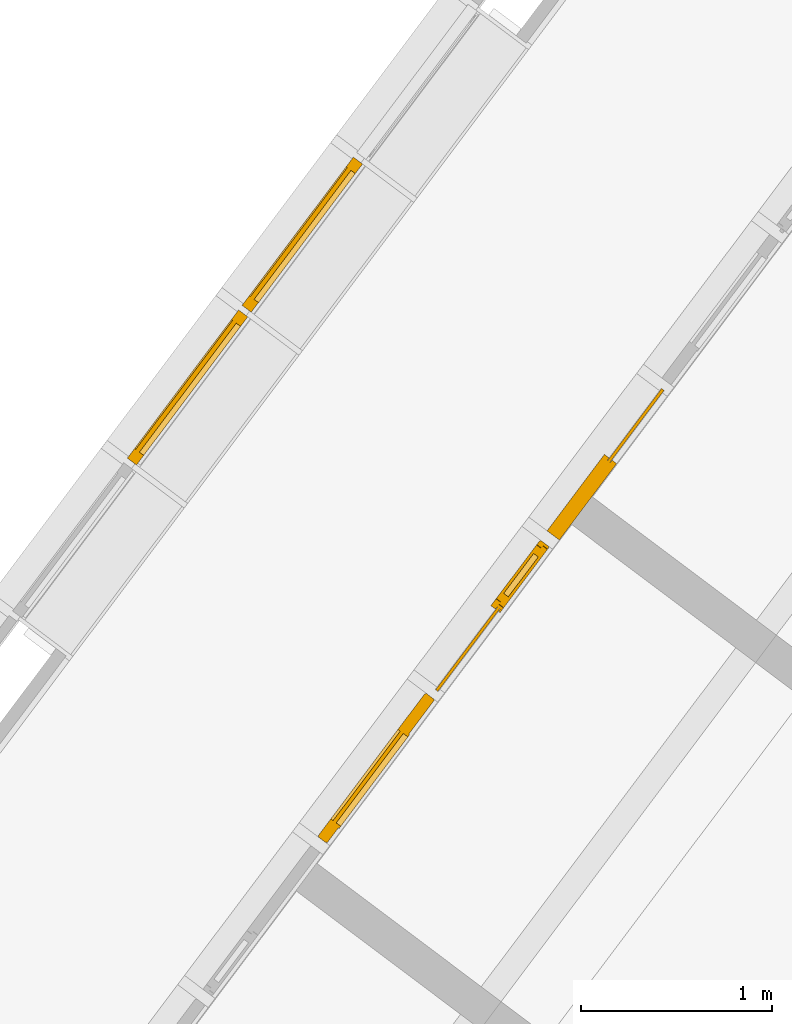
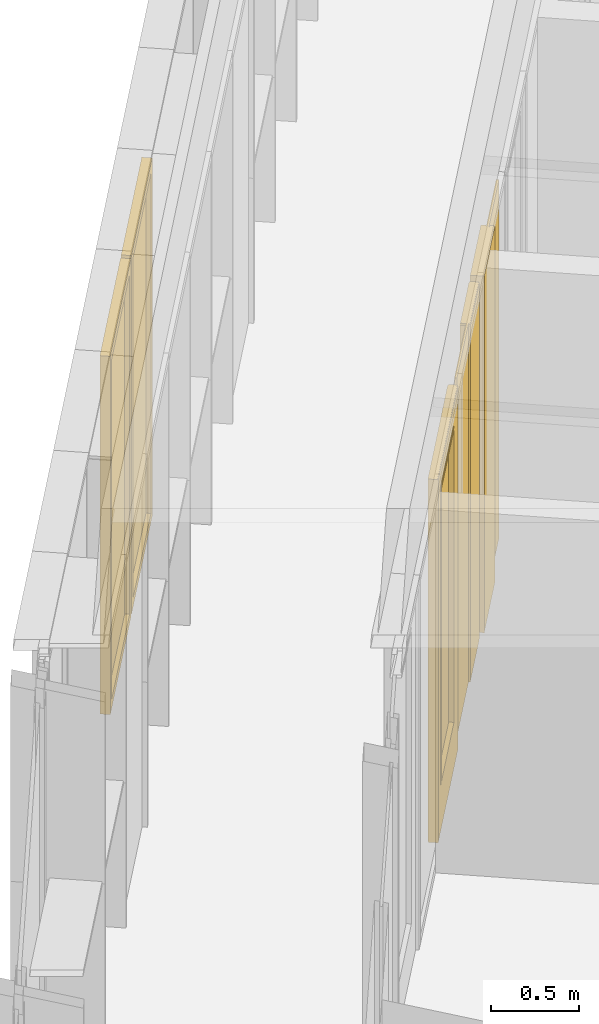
# One storey, part 163 of 243: 4 windows, 1 door, 2 elements without a shape of their own.
"""IFC2X3 building model written with IfcOpenShell, lengths in metres."""

from ifc_helpers import new_model, entity, si_unit, converted_unit, derived_unit, direction, frame, origin, origin_2d_with_axis, place, context, subcontext, project, spatial, polyline, rectangle, outline, extrude, faceted_brep, source, transform, mapped, material, material_list, type_object, type_shapes, element, aggregate, save


model = new_model("IFC2X3")

# Units and contexts
model_context = context("Model", 3, precision=1e-05, world=origin(), true_north=direction((6.123031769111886e-17, 1.0)))
body_context = subcontext(model_context, "Body", "Model", "MODEL_VIEW")
ifc_project = project(units=[si_unit("LENGTHUNIT", "METRE"), si_unit("AREAUNIT", "SQUARE_METRE"), si_unit("VOLUMEUNIT", "CUBIC_METRE"), converted_unit("PLANEANGLEUNIT", "DEGREE", entity("IfcRatioMeasure", 0.017453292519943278), si_unit("PLANEANGLEUNIT", "RADIAN"), dimensions=[0, 0, 0, 0, 0, 0, 0]), si_unit("MASSUNIT", "GRAM", prefix="KILO"), derived_unit("MASSDENSITYUNIT", [(si_unit("MASSUNIT", "GRAM", prefix="KILO"), 1), (si_unit("LENGTHUNIT", "METRE"), -3)]), derived_unit("IONCONCENTRATIONUNIT", [(si_unit("MASSUNIT", "GRAM", prefix="KILO"), 1), (si_unit("LENGTHUNIT", "METRE"), -3)]), derived_unit("MOMENTOFINERTIAUNIT", [(si_unit("LENGTHUNIT", "METRE"), 4)]), si_unit("TIMEUNIT", "SECOND"), si_unit("FREQUENCYUNIT", "HERTZ"), si_unit("THERMODYNAMICTEMPERATUREUNIT", "DEGREE_CELSIUS"), derived_unit("THERMALTRANSMITTANCEUNIT", [(si_unit("MASSUNIT", "GRAM", prefix="KILO"), 1), (si_unit("THERMODYNAMICTEMPERATUREUNIT", "KELVIN"), -1), (si_unit("TIMEUNIT", "SECOND"), -3)]), derived_unit("THERMALCONDUCTANCEUNIT", [(si_unit("MASSUNIT", "GRAM", prefix="KILO"), 1), (si_unit("THERMODYNAMICTEMPERATUREUNIT", "KELVIN"), -1), (si_unit("TIMEUNIT", "SECOND"), -3), (si_unit("LENGTHUNIT", "METRE"), 1)]), derived_unit("VOLUMETRICFLOWRATEUNIT", [(si_unit("LENGTHUNIT", "METRE"), 3), (si_unit("TIMEUNIT", "SECOND"), -1)]), derived_unit("MASSFLOWRATEUNIT", [(si_unit("MASSUNIT", "GRAM", prefix="KILO"), 1), (si_unit("TIMEUNIT", "SECOND"), -1)]), derived_unit("ROTATIONALFREQUENCYUNIT", [(si_unit("TIMEUNIT", "SECOND"), -1)]), si_unit("ELECTRICCURRENTUNIT", "AMPERE"), si_unit("ELECTRICVOLTAGEUNIT", "VOLT"), si_unit("POWERUNIT", "WATT"), si_unit("FORCEUNIT", "NEWTON", prefix="KILO"), si_unit("ILLUMINANCEUNIT", "LUX"), si_unit("LUMINOUSFLUXUNIT", "LUMEN"), si_unit("LUMINOUSINTENSITYUNIT", "CANDELA"), derived_unit("USERDEFINED", [(si_unit("MASSUNIT", "GRAM", prefix="KILO"), -1), (si_unit("LENGTHUNIT", "METRE"), -2), (si_unit("TIMEUNIT", "SECOND"), 3), (si_unit("LUMINOUSFLUXUNIT", "LUMEN"), 1)]), derived_unit("USERDEFINED", [(si_unit("MASSUNIT", "GRAM", prefix="KILO"), 1), (si_unit("TIMEUNIT", "SECOND"), -3), (si_unit("LENGTHUNIT", "METRE"), 3), (si_unit("ELECTRICCURRENTUNIT", "AMPERE"), -2)]), derived_unit("SOUNDPOWERUNIT", [(si_unit("MASSUNIT", "GRAM", prefix="KILO"), 1), (si_unit("TIMEUNIT", "SECOND"), -3), (si_unit("LENGTHUNIT", "METRE"), 2)]), derived_unit("SOUNDPRESSUREUNIT", [(si_unit("MASSUNIT", "GRAM", prefix="KILO"), 1), (si_unit("LENGTHUNIT", "METRE"), -1), (si_unit("TIMEUNIT", "SECOND"), -2)]), derived_unit("LINEARVELOCITYUNIT", [(si_unit("LENGTHUNIT", "METRE"), 1), (si_unit("TIMEUNIT", "SECOND"), -1)]), si_unit("PRESSUREUNIT", "PASCAL"), derived_unit("USERDEFINED", [(si_unit("MASSUNIT", "GRAM", prefix="KILO"), 1), (si_unit("LENGTHUNIT", "METRE"), -2), (si_unit("TIMEUNIT", "SECOND"), -2)]), derived_unit("LINEARFORCEUNIT", [(si_unit("MASSUNIT", "GRAM", prefix="KILO"), 1), (si_unit("TIMEUNIT", "SECOND"), -2)]), derived_unit("PLANARFORCEUNIT", [(si_unit("MASSUNIT", "GRAM", prefix="KILO"), 1), (si_unit("LENGTHUNIT", "METRE"), -1), (si_unit("TIMEUNIT", "SECOND"), -2)]), derived_unit("SPECIFICHEATCAPACITYUNIT", [(si_unit("THERMODYNAMICTEMPERATUREUNIT", "KELVIN"), -1), (si_unit("LENGTHUNIT", "METRE"), 2), (si_unit("TIMEUNIT", "SECOND"), -2)]), derived_unit("HEATINGVALUEUNIT", [(si_unit("LENGTHUNIT", "METRE"), 2), (si_unit("TIMEUNIT", "SECOND"), -2)]), derived_unit("VAPORPERMEABILITYUNIT", [(si_unit("LENGTHUNIT", "METRE"), -1), (si_unit("TIMEUNIT", "SECOND"), 1)]), derived_unit("DYNAMICVISCOSITYUNIT", [(si_unit("MASSUNIT", "GRAM", prefix="KILO"), 1), (si_unit("TIMEUNIT", "SECOND"), -1), (si_unit("LENGTHUNIT", "METRE"), -1)]), derived_unit("THERMALEXPANSIONCOEFFICIENTUNIT", [(si_unit("THERMODYNAMICTEMPERATUREUNIT", "KELVIN"), -1)]), derived_unit("MODULUSOFELASTICITYUNIT", [(si_unit("MASSUNIT", "GRAM", prefix="KILO"), 1), (si_unit("LENGTHUNIT", "METRE"), -1), (si_unit("TIMEUNIT", "SECOND"), -2)]), derived_unit("ISOTHERMALMOISTURECAPACITYUNIT", [(si_unit("LENGTHUNIT", "METRE"), 3), (si_unit("MASSUNIT", "GRAM", prefix="KILO"), -1)]), derived_unit("MOISTUREDIFFUSIVITYUNIT", [(si_unit("TIMEUNIT", "SECOND"), -1), (si_unit("LENGTHUNIT", "METRE"), 2)])], contexts=[model_context])

# Site, building, storey
site_placement = place(None, frame((0.0, 0.0, 235.0), z_axis=(0.0, 0.0, 1.0), x_axis=(-0.7996477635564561, 0.6004693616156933, 0.0)))
site = spatial("IfcSite", under=ifc_project, at=site_placement, Name="Default", CompositionType="ELEMENT")
building_placement = place(site_placement, origin())
building = spatial("IfcBuilding", under=site, at=building_placement, CompositionType="ELEMENT")
storey_placement = place(building_placement, origin())
storey = spatial("IfcBuildingStorey", under=building, at=storey_placement, Name="P0- Escola", CompositionType="ELEMENT", Elevation=0.0)

# Curtain wall, door, windows
curtain_wall_type_1 = type_object("IfcCurtainWallType", Name="Muro cortina:MC- INT- a2", PredefinedType="NOTDEFINED")
curtain_wall_1_placement = place(storey_placement, origin())
curtain_wall_1 = element("IfcCurtainWall", 1, at=curtain_wall_1_placement, inside=storey, type_object=curtain_wall_type_1, Name="Muro cortina:MC- INT- a2", ObjectType="Muro cortina:MC- INT- a2")
ifc_material_1 = material(Name="_Fusta massisa- T1")
ifc_material_2 = material(Name="_Vidre")
ifc_material_list_1 = material_list([ifc_material_1, ifc_material_2])
door_style = type_object("IfcDoorStyle", Name="MC- Fusta- conjunt porta:MC- Fusta- conjunt Porta aules", ConstructionType="NOTDEFINED", OperationType="NOTDEFINED", ParameterTakesPrecedence=False, Sizeable=False, material=ifc_material_list_1)
shared_shape_1 = source(origin(), body_context, "Body", "Brep", [
    faceted_brep([(0.24500000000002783, -0.024999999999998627, 2.3799999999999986), (0.24500000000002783, -0.024999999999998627, 0.3299999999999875), (0.24500000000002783, 0.0050000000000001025, 0.3299999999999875), (0.24500000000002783, 0.0050000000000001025, 2.3799999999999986), (-0.3700000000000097, -0.024999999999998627, 0.3299999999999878), (-0.3700000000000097, 0.0050000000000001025, 0.3299999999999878), (-0.37000000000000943, -0.024999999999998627, 2.3799999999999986), (-0.37000000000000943, 0.0050000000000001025, 2.3799999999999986), (0.23000000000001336, 0.0050000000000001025, 2.3650000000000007), (-0.35499999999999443, 0.0050000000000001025, 2.3650000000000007), (-0.35499999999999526, 0.0050000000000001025, 0.3449999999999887), (0.23000000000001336, 0.0050000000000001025, 0.34499999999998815), (0.23000000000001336, -0.024999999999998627, 2.3650000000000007), (0.23000000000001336, -0.024999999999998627, 0.34499999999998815), (-0.35499999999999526, -0.024999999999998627, 0.3449999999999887), (-0.35499999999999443, -0.024999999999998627, 2.3650000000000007)], [[[0, 1, 2, 3]], [[1, 4, 5, 2]], [[4, 6, 7, 5]], [[8, 9, 10, 11], [3, 2, 5, 7]], [[12, 13, 14, 15], [0, 6, 4, 1]], [[13, 12, 8, 11]], [[14, 13, 11, 10]], [[15, 14, 10, 9]], [[6, 0, 3, 7]], [[12, 15, 9, 8]]], outer=[[True], [True], [True], [False, True], [False, True], [True], [True], [True], [True], [True]]),
    faceted_brep([(0.43999999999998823, 0.03999999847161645, 0.0), (0.43999999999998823, 0.0099999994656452, 0.0), (0.4550000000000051, 0.0099999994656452, 0.0), (0.4550000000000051, -0.01999999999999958, 0.0), (-0.45499999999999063, -0.019999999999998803, 0.0), (-0.45499999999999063, 0.009999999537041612, 0.0), (-0.43999999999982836, 0.009999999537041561, 0.0), (-0.43999999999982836, 0.039999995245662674, 0.0), (0.45500000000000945, -0.01999999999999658, 2.4899999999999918), (-0.45499999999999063, -0.019999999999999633, 2.4899999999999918), (0.24500000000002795, -0.019999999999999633, 0.3300000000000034), (-0.37000000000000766, -0.019999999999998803, 0.3300000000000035), (-0.37000000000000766, -0.01999999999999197, 2.3799999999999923), (0.24500000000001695, -0.019999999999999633, 2.3799999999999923), (0.45500000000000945, 0.0099999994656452, 2.4899999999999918), (-0.45499999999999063, 0.0099999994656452, 2.4899999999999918), (0.43999999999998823, 0.03999999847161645, 2.4749999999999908), (0.43999999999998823, 0.0099999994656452, 2.4749999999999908), (-0.43999999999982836, 0.0099999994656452, 2.4749999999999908), (-0.43999999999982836, 0.039999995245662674, 2.4749999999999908), (-0.3549999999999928, 0.03999999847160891, 0.3450000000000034), (0.2300000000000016, 0.03999999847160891, 0.3450000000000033), (0.2300000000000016, 0.03999999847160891, 2.364999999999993), (-0.3549999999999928, 0.03999999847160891, 2.364999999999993), (-0.3549999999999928, 0.025000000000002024, 0.3450000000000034), (0.2300000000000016, 0.025000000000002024, 0.3450000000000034), (0.2300000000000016, 0.024999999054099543, 2.364999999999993), (-0.3549999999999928, 0.03999999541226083, 2.364999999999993), (-0.3549999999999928, 0.024999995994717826, 2.364999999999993), (0.2300000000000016, 0.025000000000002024, 2.364999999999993), (-0.37000000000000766, 0.025000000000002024, 0.3300000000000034), (0.24500000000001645, 0.025000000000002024, 0.3300000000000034), (0.24500000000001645, 0.025000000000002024, 2.3799999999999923), (-0.37000000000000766, 0.025000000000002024, 2.3799999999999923), (0.24500000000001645, 0.024999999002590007, 0.3300000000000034), (-0.37000000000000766, 0.02499999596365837, 2.3799999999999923), (0.24500000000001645, 0.024999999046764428, 2.3799999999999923)], [[[0, 1, 2, 3, 4, 5, 6, 7]], [[8, 9, 4, 3], [10, 11, 12, 13]], [[8, 3, 2, 14]], [[15, 5, 4, 9]], [[16, 17, 1, 0]], [[14, 2, 1, 17, 18, 6, 5, 15]], [[18, 19, 7, 6]], [[16, 0, 7, 19], [20, 21, 22, 23]], [[21, 20, 24, 25]], [[21, 25, 26, 22]], [[24, 20, 27, 28]], [[25, 24, 28, 29], [30, 31, 32, 33]], [[11, 10, 31, 30]], [[34, 10, 13, 32]], [[11, 30, 35, 12]], [[9, 8, 14, 15]], [[17, 16, 19, 18]], [[23, 22, 29, 28]], [[13, 12, 33, 36]]], outer=[[True], [True, False], [True], [True], [True], [True], [True], [True, False], [True], [True], [True], [False, True], [True], [True], [True], [True], [True], [True], [True]]),
    faceted_brep([(-0.37000000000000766, 0.024999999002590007, 0.3300000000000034), (0.2450000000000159, 0.024999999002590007, 0.3300000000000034), (0.2450000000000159, 0.0050000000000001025, 0.3300000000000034), (-0.37000000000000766, 0.0050000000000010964, 0.3300000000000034), (-0.37000000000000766, 0.024999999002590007, 2.380000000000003), (0.2450000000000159, 0.024999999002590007, 2.380000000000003), (0.2450000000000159, 0.0050000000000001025, 2.380000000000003), (-0.37000000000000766, 0.0050000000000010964, 2.380000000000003)], [[[0, 1, 2, 3]], [[4, 5, 1, 0]], [[5, 6, 2, 1]], [[6, 7, 3, 2]], [[7, 4, 0, 3]], [[4, 7, 6, 5]]]),
    faceted_brep([(0.46500000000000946, -0.01999999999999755, 0.0), (0.4550000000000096, -0.01999999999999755, 0.0), (0.4550000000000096, 0.010000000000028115, 0.0), (0.44000000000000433, 0.010000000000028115, 0.0), (0.44000000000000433, 0.0400000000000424, 0.0), (0.46500000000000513, 0.0400000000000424, 0.0), (0.46500000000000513, 0.03600000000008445, 0.0), (0.469999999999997, 0.03600000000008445, 0.0), (0.469999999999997, -0.015999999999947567, 0.0), (0.46500000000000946, -0.015999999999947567, 0.0), (0.46500000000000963, -0.01999999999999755, 2.5000000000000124), (-0.46500000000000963, -0.01999999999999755, 2.5000000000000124), (-0.46500000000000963, -0.01999999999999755, 0.0), (-0.45500000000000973, -0.01999999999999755, 0.0), (-0.45500000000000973, -0.01999999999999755, 2.4900000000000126), (0.4550000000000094, -0.01999999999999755, 2.490000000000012), (0.4550000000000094, 0.010000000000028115, 2.490000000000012), (-0.45500000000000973, 0.010000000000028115, 2.4900000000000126), (-0.45500000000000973, 0.010000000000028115, 0.0), (-0.4400000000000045, 0.010000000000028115, 0.0), (-0.4400000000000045, 0.010000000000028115, 2.4750000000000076), (0.4400000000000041, 0.010000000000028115, 2.4750000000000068), (0.4400000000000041, 0.0400000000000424, 2.4750000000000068), (-0.4400000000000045, 0.0400000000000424, 2.4750000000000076), (-0.4400000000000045, 0.0400000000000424, 0.0), (-0.4650000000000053, 0.0400000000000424, 0.0), (-0.4650000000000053, 0.0400000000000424, 2.5000000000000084), (0.46500000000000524, 0.0400000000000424, 2.5000000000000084), (0.46500000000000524, 0.03600000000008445, 2.5000000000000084), (-0.4650000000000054, 0.03600000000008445, 2.5000000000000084), (-0.4650000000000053, 0.03600000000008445, 0.0), (-0.4699999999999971, 0.03600000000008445, 0.0), (-0.4699999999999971, 0.03600000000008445, 2.5050000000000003), (0.46999999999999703, 0.03600000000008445, 2.5050000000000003), (0.46999999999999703, -0.015999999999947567, 2.5050000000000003), (-0.46999999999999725, -0.015999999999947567, 2.5050000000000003), (-0.4699999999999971, -0.015999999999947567, 0.0), (-0.46500000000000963, -0.015999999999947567, 0.0), (-0.46500000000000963, -0.015999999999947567, 2.5000000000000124), (0.4650000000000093, -0.015999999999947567, 2.500000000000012)], [[[0, 1, 2, 3, 4, 5, 6, 7, 8, 9]], [[1, 0, 10, 11, 12, 13, 14, 15]], [[2, 1, 15, 16]], [[3, 2, 16, 17, 18, 19, 20, 21]], [[4, 3, 21, 22]], [[5, 4, 22, 23, 24, 25, 26, 27]], [[6, 5, 27, 28]], [[7, 6, 28, 29, 30, 31, 32, 33]], [[8, 7, 33, 34]], [[9, 8, 34, 35, 36, 37, 38, 39]], [[0, 9, 39, 10]], [[11, 38, 37, 12]], [[12, 37, 36, 31, 30, 25, 24, 19, 18, 13]], [[17, 14, 13, 18]], [[23, 20, 19, 24]], [[29, 26, 25, 30]], [[35, 32, 31, 36]], [[16, 15, 14, 17]], [[22, 21, 20, 23]], [[28, 27, 26, 29]], [[34, 33, 32, 35]], [[10, 39, 38, 11]]]),
])
type_shapes(door_style, [shared_shape_1])
door_placement = place(curtain_wall_1_placement, frame((34.62014768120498, -25.91519175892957, 0.0), z_axis=(0.0, 0.0, 1.0), x_axis=(0.0, -1.0, 0.0)))
door = element("IfcDoor", 2, at=door_placement, type_object=door_style, material=ifc_material_list_1, Name="MC- Fusta- conjunt porta:MC- Fusta- conjunt Porta aules", ObjectType="MC- Fusta- conjunt porta:MC- Fusta- conjunt Porta aules", OverallHeight=2.5050000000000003, OverallWidth=0.9399999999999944, context=body_context, shape_type="MappedRepresentation", body=[
    mapped(shared_shape_1, transform((0.0, 0.0, 0.0), scale=1.0)),
])
window_style_1 = type_object("IfcWindowStyle", Name="MC- Fusta- vidre fix + part opaca:MC- Fusta- vidre fix + part opaca", ConstructionType="NOTDEFINED", OperationType="NOTDEFINED", ParameterTakesPrecedence=False, Sizeable=False, material=ifc_material_list_1)
shared_shape_2 = source(origin(), body_context, "Body", "SweptSolid", [
    extrude(outline(polyline([(-0.12875, -0.040000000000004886), (0.3712500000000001, -0.040000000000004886), (0.3712500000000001, 0.04000000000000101), (-0.12875, 0.04000000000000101), (-0.12875, 0.01000000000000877), (-0.1137500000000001, 0.01000000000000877), (-0.1137500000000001, -0.010000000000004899), (-0.12875, -0.010000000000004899), (-0.12875, -0.040000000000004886)])), frame((-0.10624999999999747, 0.0, 0.014999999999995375), z_axis=(0.0, 0.0, 1.0), x_axis=(-1.0, 0.0, 0.0)), (0.0, 0.0, 1.0), 2.4600000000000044),
    extrude(rectangle(XDim=0.4699999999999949, YDim=0.015999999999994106, at=origin_2d_with_axis()), frame((0.2425000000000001, 0.0, 0.0), z_axis=(0.0, 0.0, 1.0), x_axis=(-1.0, 0.0, 0.0)), (0.0, 0.0, 1.0), 2.475),
])
type_shapes(window_style_1, [shared_shape_2])
window_1_placement = place(curtain_wall_1_placement, frame((34.62014768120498, -27.922691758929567, 0.045000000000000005), z_axis=(0.0, 0.0, 1.0), x_axis=(0.0, -1.0, 0.0)))
window_1 = element("IfcWindow", 3, at=window_1_placement, type_object=window_style_1, material=ifc_material_list_1, Name="MC- Fusta- vidre fix + part opaca:MC- Fusta- vidre fix + part opaca", ObjectType="MC- Fusta- vidre fix + part opaca:MC- Fusta- vidre fix + part opaca", OverallHeight=2.475, OverallWidth=0.9549999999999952, context=body_context, shape_type="MappedRepresentation", body=[
    mapped(shared_shape_2, transform((0.0, 0.0, 0.0), scale=1.0)),
])
ifc_material_3 = material(Name="_Fusta massisa- T1-  REV- PAV")
ifc_material_list_2 = material_list([ifc_material_3, ifc_material_2])
window_style_2 = type_object("IfcWindowStyle", Name="MC- Fusta- Finestra ventilacio interior- Panell vidre:MC- Fusta- Finestra ventilacio interior- Panell vidre", ConstructionType="NOTDEFINED", OperationType="NOTDEFINED", ParameterTakesPrecedence=False, Sizeable=False, material=ifc_material_list_2)
shared_shape_3 = source(origin(), body_context, "Body", "Brep", [
    faceted_brep([(0.4005000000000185, 0.025000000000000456, 2.3979999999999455), (0.1395000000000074, 0.024999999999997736, 2.397999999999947), (0.13950000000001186, 0.024999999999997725, 1.0449999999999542), (0.40050000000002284, 0.02500000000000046, 1.0449999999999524), (0.1395000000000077, -0.0050000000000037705, 2.397999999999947), (0.13950000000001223, -0.0050000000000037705, 1.0449999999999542), (0.4005000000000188, -0.005000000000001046, 2.3979999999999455), (0.4005000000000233, -0.005000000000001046, 1.0449999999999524), (0.09450000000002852, 0.03999999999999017, 2.4429999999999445), (0.09450000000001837, 0.03999999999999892, 1.0), (0.09450000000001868, 0.0099999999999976, 1.0), (0.09450000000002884, 0.009999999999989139, 2.4429999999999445), (0.4455000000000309, 0.01000000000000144, 1.0), (0.4455000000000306, 0.040000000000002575, 1.0), (0.4455000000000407, 0.039999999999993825, 2.4429999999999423), (0.445500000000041, 0.010000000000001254, 2.443000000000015), (0.07950000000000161, 0.009999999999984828, 0.9850000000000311), (0.07949999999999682, 0.010000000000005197, 2.458000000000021), (0.46050000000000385, 0.010000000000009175, 2.4580000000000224), (0.4605000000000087, 0.009999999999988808, 0.9850000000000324), (0.07949999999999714, -0.019999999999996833, 2.4580000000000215), (0.07950000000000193, -0.0200000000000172, 0.9850000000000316), (0.460500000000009, -0.020000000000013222, 0.985000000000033), (0.46050000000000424, -0.019999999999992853, 2.458000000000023)], [[[0, 1, 2, 3]], [[1, 4, 5, 2]], [[4, 6, 7, 5]], [[3, 7, 6, 0]], [[8, 9, 10, 11]], [[12, 13, 14, 15]], [[15, 14, 8, 11]], [[8, 14, 13, 9]], [[0, 6, 4, 1]], [[2, 5, 7, 3]], [[9, 13, 12, 10]], [[11, 10, 12, 15], [16, 17, 18, 19]], [[20, 21, 22, 23]], [[20, 23, 18, 17]], [[16, 21, 20, 17]], [[18, 23, 22, 19]], [[16, 19, 22, 21]]], outer=[[True], [True], [True], [True], [True], [True], [True], [True], [True], [True], [True], [False, True], [True], [True], [True], [True], [True]]),
    faceted_brep([(-0.4775000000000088, -0.007500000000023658, 0.0), (-0.47750000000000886, 0.007499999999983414, 0.0), (0.06250000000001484, 0.007499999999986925, 0.0), (0.06250000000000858, -0.00750000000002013, 0.0), (-0.4775000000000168, -0.007500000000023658, 2.4749999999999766), (-0.4775000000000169, 0.007499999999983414, 2.4749999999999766), (0.06250000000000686, 0.007499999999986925, 2.4749999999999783), (0.06250000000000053, -0.00750000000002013, 2.4749999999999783)], [[[0, 1, 2, 3]], [[4, 5, 1, 0]], [[5, 6, 2, 1]], [[6, 7, 3, 2]], [[7, 4, 0, 3]], [[4, 7, 6, 5]]]),
    faceted_brep([(0.4625000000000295, -0.020000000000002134, 0.9850000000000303), (0.07750000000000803, -0.020000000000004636, 0.9850000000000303), (0.07750000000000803, -0.019999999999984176, 2.4599999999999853), (0.46250000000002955, -0.019999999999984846, 2.459999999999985), (0.46250000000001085, -0.02000000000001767, 0.015000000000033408), (0.46250000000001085, -0.020000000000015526, 0.020000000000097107), (0.47250000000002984, -0.020000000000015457, 0.020000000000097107), (0.47250000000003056, -0.019999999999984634, 2.4700000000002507), (0.04750000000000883, -0.01999999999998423, 2.470000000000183), (0.047500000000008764, -0.02000000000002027, 0.015000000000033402), (0.4725000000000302, -0.015999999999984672, 2.4699999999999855), (0.4725000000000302, -0.01600000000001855, 0.02000000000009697), (0.4625000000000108, -0.016000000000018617, 0.02000000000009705), (0.47750000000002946, -0.015999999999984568, 2.4749999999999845), (0.06250000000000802, -0.015999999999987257, 2.4749999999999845), (0.062500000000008, -0.015999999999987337, 2.47000000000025), (0.4625000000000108, -0.016000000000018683, 0.015000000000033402), (0.4775000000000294, -0.016000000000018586, 0.015000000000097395), (0.06250000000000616, 0.03600000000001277, 2.474999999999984), (0.4775000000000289, 0.03600000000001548, 2.4749999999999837), (0.47750000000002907, 0.035999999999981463, 0.015000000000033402), (0.44750000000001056, 0.03599999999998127, 0.015000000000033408), (0.44750000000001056, 0.03599999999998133, 0.020000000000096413), (0.4725000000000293, 0.0359999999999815, 0.02000000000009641), (0.47250000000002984, 0.03600000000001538, 2.4700000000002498), (0.06250000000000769, 0.03600000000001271, 2.4699999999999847), (0.4725000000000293, 0.03999999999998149, 0.020000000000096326), (0.44750000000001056, 0.03999999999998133, 0.020000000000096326), (0.09250000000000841, 0.039999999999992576, 1.0), (0.447500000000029, 0.03999999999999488, 1.0), (0.44750000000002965, 0.040000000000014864, 2.4449999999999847), (0.09250000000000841, 0.04000000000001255, 2.4449999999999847), (0.44750000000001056, 0.039999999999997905, 0.015000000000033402), (0.047500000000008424, 0.039999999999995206, 0.015000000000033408), (0.047500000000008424, 0.039999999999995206, 2.4700000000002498), (0.47250000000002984, 0.04000000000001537, 2.469999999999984), (0.4625000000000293, 0.00999999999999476, 0.9850000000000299), (0.46250000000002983, 0.010000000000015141, 2.459999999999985), (0.09250000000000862, 0.010000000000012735, 2.459999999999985), (0.07750000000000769, 0.010000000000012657, 2.459999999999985), (0.07750000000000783, 0.009999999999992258, 0.9850000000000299), (0.09250000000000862, 0.009999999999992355, 0.9850000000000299), (0.44750000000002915, 0.009999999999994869, 1.0), (0.09250000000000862, 0.009999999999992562, 1.0), (0.09250000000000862, 0.010000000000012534, 2.444999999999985), (0.4475000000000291, 0.010000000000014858, 2.444999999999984), (0.06250000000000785, 0.009999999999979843, 2.470000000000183), (0.06250000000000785, 0.009999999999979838, 0.015000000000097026), (0.06250000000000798, -0.010000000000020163, 0.015000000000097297), (0.06250000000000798, -0.010000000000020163, 2.470000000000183), (0.047500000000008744, -0.01000000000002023, 2.470000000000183), (0.047500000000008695, -0.010000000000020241, 0.015000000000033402), (0.04750000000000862, 0.00999999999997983, 2.47000000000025), (0.04750000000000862, 0.009999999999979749, 0.015000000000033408)], [[[0, 1, 2, 3], [4, 5, 6, 7, 8, 9]], [[10, 7, 6, 11]], [[11, 6, 5, 12]], [[13, 14, 15, 10, 11, 12, 16, 17]], [[18, 19, 20, 21, 22, 23, 24, 25]], [[26, 23, 22, 27]], [[28, 29, 30, 31], [27, 32, 33, 34, 35, 26]], [[36, 37, 38, 39, 40, 41], [42, 43, 44, 45]], [[28, 43, 42, 29]], [[43, 28, 31, 44]], [[45, 30, 29, 42]], [[3, 37, 36, 0]], [[1, 40, 39, 2]], [[40, 1, 0, 36, 41]], [[14, 18, 25, 46, 47, 48, 49, 15]], [[8, 50, 51, 9]], [[52, 34, 33, 53]], [[47, 46, 52, 53]], [[50, 49, 48, 51]], [[19, 13, 17, 20]], [[7, 10, 15, 49, 50, 8]], [[13, 19, 18, 14]], [[37, 3, 2, 39, 38]], [[30, 45, 44, 31]], [[4, 16, 12, 5]], [[4, 9, 51, 48, 47, 53, 33, 32, 21, 20, 17, 16]], [[32, 27, 22, 21]], [[24, 35, 34, 52, 46, 25]], [[35, 24, 23, 26]]], outer=[[False, True], [True], [True], [True], [True], [True], [False, True], [True, False], [True], [True], [True], [True], [True], [True], [True], [True], [True], [True], [True], [True], [True], [True], [True], [True], [True], [True], [True], [True], [True]]),
])
type_shapes(window_style_2, [shared_shape_3])
window_2_placement = place(curtain_wall_1_placement, frame((34.62014768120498, -26.907691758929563, 0.045000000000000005), z_axis=(0.0, 0.0, 1.0), x_axis=(0.0, -1.0, 0.0)))
window_2 = element("IfcWindow", 4, at=window_2_placement, type_object=window_style_2, material=ifc_material_list_2, Name="MC- Fusta- Finestra ventilacio interior- Panell vidre:MC- Fusta- Finestra ventilacio interior- Panell vidre", ObjectType="MC- Fusta- Finestra ventilacio interior- Panell vidre:MC- Fusta- Finestra ventilacio interior- Panell vidre", OverallHeight=2.4750000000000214, OverallWidth=0.9550000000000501, context=body_context, shape_type="MappedRepresentation", body=[
    mapped(shared_shape_3, transform((0.0, 0.0, 0.0), scale=1.0)),
])
aggregate(curtain_wall_1, [window_1, window_2, door])

# Curtain wall, windows
curtain_wall_type_2 = type_object("IfcCurtainWallType", Name="Muro cortina:MC- EXT- MC5", PredefinedType="NOTDEFINED")
curtain_wall_2_placement = place(storey_placement, origin())
curtain_wall_2 = element("IfcCurtainWall", 5, at=curtain_wall_2_placement, inside=storey, type_object=curtain_wall_type_2, Name="Muro cortina:MC- EXT- MC5", ObjectType="Muro cortina:MC- EXT- MC5")
ifc_material_4 = material(Name="_Alumini- T1- Perfil")
ifc_material_list_3 = material_list([ifc_material_2, ifc_material_4])
window_style_3 = type_object("IfcWindowStyle", Name="MC- Alu- Conjunt vidre fix- 62x60 cm:MC- Alu- Conjunt vidre fix- 62x60 cm", ConstructionType="NOTDEFINED", OperationType="NOTDEFINED", ParameterTakesPrecedence=False, Sizeable=False, material=ifc_material_list_3)
shared_shape_4 = source(origin(), body_context, "Body", "Brep", [
    faceted_brep([(-0.43619328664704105, -0.007600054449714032, 0.048806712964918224), (0.43619328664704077, -0.007600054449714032, 0.048806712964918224), (0.43619328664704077, -0.03160022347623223, 0.048806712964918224), (-0.43619328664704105, -0.03160022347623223, 0.048806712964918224), (-0.43619328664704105, -0.007600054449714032, 2.422449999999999), (0.43619328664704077, -0.007600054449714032, 2.422449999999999), (0.43619328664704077, -0.03160022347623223, 2.422449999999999), (-0.43619328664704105, -0.03160022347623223, 2.422449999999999)], [[[0, 1, 2, 3]], [[4, 5, 1, 0]], [[5, 6, 2, 1]], [[6, 7, 3, 2]], [[7, 4, 0, 3]], [[4, 7, 6, 5]]]),
    faceted_brep([(-0.4849999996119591, -0.05999999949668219, 2.471449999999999), (-0.4849999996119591, 0.0, 2.471449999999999), (-0.4849999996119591, 0.0, 0.0), (-0.48499999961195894, -0.05999999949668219, 0.0), (-0.4221931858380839, 0.0, 2.408643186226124), (-0.4221931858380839, 0.0, 0.06280681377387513), (0.42219318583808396, 0.0, 0.06280681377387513), (0.422193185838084, 0.0, 2.408643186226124), (0.4849999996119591, 0.0, 2.471449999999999), (0.4849999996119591, 0.0, 0.0), (0.48499999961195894, -0.05999999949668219, 0.0), (0.4849999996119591, -0.05999999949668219, 2.471449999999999), (0.42219603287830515, -0.05999999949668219, 2.408646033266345), (0.42219603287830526, -0.05999999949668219, 0.06280396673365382), (-0.42219603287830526, -0.05999999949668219, 0.06280396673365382), (-0.42219603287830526, -0.05999999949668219, 2.4086460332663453), (-0.42219603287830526, -0.03160022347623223, 2.4086460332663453), (-0.4221960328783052, -0.03160022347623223, 0.06280396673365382), (0.4221960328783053, -0.03160022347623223, 0.06280396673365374), (0.42219603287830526, -0.03160022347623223, 2.4086460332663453), (0.43619328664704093, -0.03160022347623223, 2.422643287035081), (0.43619328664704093, -0.03160022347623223, 0.048806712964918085), (-0.4361932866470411, -0.03160022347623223, 0.04880671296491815), (-0.43619328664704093, -0.03160022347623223, 2.422643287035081), (-0.43619328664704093, -0.007600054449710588, 2.422643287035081), (-0.4361932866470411, -0.007600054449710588, 0.04880671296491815), (0.43619328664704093, -0.007600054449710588, 0.048806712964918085), (0.43619328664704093, -0.007600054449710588, 2.422643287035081), (0.42219318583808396, -0.007600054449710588, 2.408643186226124), (0.42219318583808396, -0.007600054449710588, 0.06280681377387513), (-0.42219318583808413, -0.007600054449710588, 0.06280681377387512), (-0.4221931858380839, -0.007600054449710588, 2.408643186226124)], [[[0, 1, 2, 3]], [[4, 5, 6, 7], [8, 9, 2, 1]], [[3, 2, 9, 10]], [[0, 3, 10, 11], [12, 13, 14, 15]], [[16, 15, 14, 17]], [[17, 14, 13, 18]], [[16, 17, 18, 19], [20, 21, 22, 23]], [[24, 23, 22, 25]], [[25, 22, 21, 26]], [[24, 25, 26, 27], [28, 29, 30, 31]], [[4, 31, 30, 5]], [[5, 30, 29, 6]], [[10, 9, 8, 11]], [[18, 13, 12, 19]], [[26, 21, 20, 27]], [[6, 29, 28, 7]], [[11, 8, 1, 0]], [[19, 12, 15, 16]], [[27, 20, 23, 24]], [[7, 28, 31, 4]]], outer=[[True], [False, True], [True], [True, False], [True], [True], [False, True], [True], [True], [True, False], [True], [True], [True], [True], [True], [True], [True], [True], [True], [True]]),
])
type_shapes(window_style_3, [shared_shape_4])
window_3_placement = place(curtain_wall_2_placement, frame((36.64514768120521, -26.91519175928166, 0.03229999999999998), z_axis=(0.0, 0.0, 1.0), x_axis=(0.0, -1.0, 0.0)))
window_3 = element("IfcWindow", 6, at=window_3_placement, type_object=window_style_3, material=ifc_material_list_3, Name="MC- Alu- Conjunt vidre fix- 62x60 cm:MC- Alu- Conjunt vidre fix- 62x60 cm", ObjectType="MC- Alu- Conjunt vidre fix- 62x60 cm:MC- Alu- Conjunt vidre fix- 62x60 cm", OverallHeight=2.471449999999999, OverallWidth=0.9699999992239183, context=body_context, shape_type="MappedRepresentation", body=[
    mapped(shared_shape_4, transform((0.0, 0.0, 0.0), scale=1.0)),
])
window_4_placement = place(curtain_wall_2_placement, frame((36.645147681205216, -27.91519175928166, 0.03229999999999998), z_axis=(0.0, 0.0, 1.0), x_axis=(0.0, -1.0, 0.0)))
window_4 = element("IfcWindow", 7, at=window_4_placement, type_object=window_style_3, material=ifc_material_list_3, Name="MC- Alu- Conjunt vidre fix- 62x60 cm:MC- Alu- Conjunt vidre fix- 62x60 cm", ObjectType="MC- Alu- Conjunt vidre fix- 62x60 cm:MC- Alu- Conjunt vidre fix- 62x60 cm", OverallHeight=2.471449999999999, OverallWidth=0.9699999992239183, context=body_context, shape_type="MappedRepresentation", body=[
    mapped(shared_shape_4, transform((0.0, 0.0, 0.0), scale=1.0)),
])
aggregate(curtain_wall_2, [window_3, window_4])

save(model, "model.ifc")
